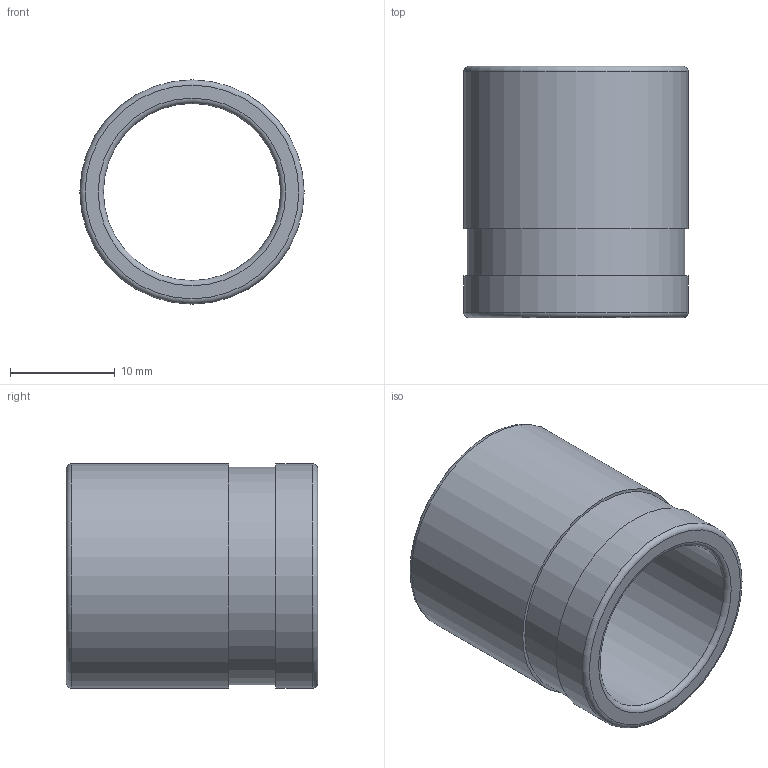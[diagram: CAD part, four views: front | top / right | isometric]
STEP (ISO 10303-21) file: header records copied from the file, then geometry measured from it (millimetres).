
FILE_DESCRIPTION(('STEP AP203'), '1');
FILE_NAME('ÂÐ.713143.002 - VTm.400.G.001622 - Ãèëüçà íàäâèæíàÿ', '2024-01-23T12:52:32', ('Boss'), (''), 'C3D Converter', 'C3D Toolkit', '');
FILE_SCHEMA(('CONFIG_CONTROL_DESIGN'));
Length unit declared in the file: millimetre
Products named in the file (1): ВР.713143.002
Bounding box: 21.4 x 24 x 21.4 mm (x, y, z)
Volume: 2957.3 mm3; surface area: 3114 mm2
Topology: 1 solids, 1 shells, 18 faces, 33 edges, 20 vertices
Faces by surface type: torus 6, cylinder 5, plane 5, cone 2
Full cylindrical faces by diameter (mm): 16.9 x2, 20.8 x1, 21.4 x2
Entity records: 431 total; most frequent: DIRECTION 82, CARTESIAN_POINT 61, ORIENTED_EDGE 44, AXIS2_PLACEMENT_3D 41, EDGE_LOOP 34, EDGE_CURVE 22, CIRCLE 22, VERTEX_POINT 20
